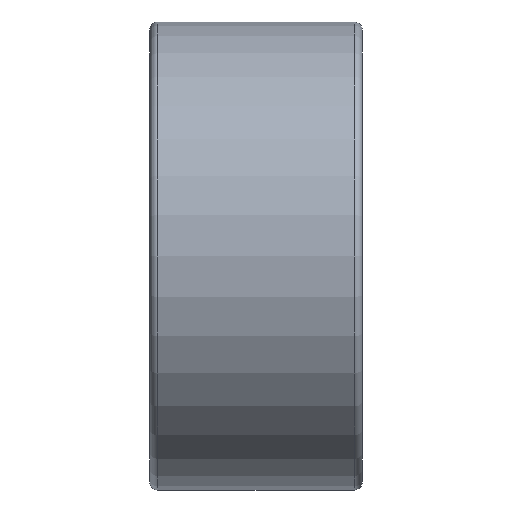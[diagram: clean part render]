
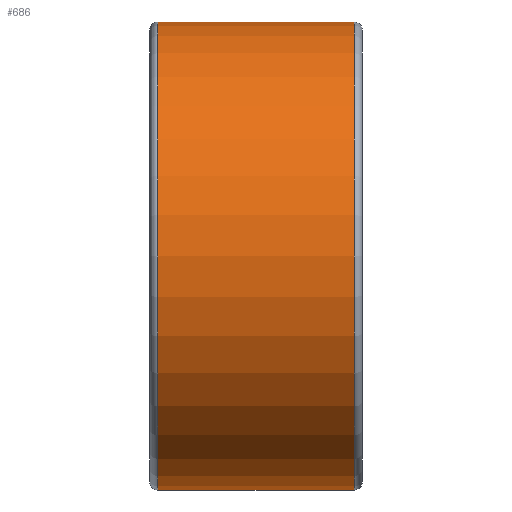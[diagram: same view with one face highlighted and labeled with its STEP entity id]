
A CAD part, front view. The second image highlights one B-rep face of the part: STEP entity #686.
In plain terms, the highlighted cylindrical face has radius 17.5 mm (diameter 35 mm), a full revolution.
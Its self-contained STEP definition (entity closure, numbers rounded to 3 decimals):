
#191=FACE_BOUND($,#298,.T.);
#232=FACE_OUTER_BOUND($,#297,.T.);
#297=EDGE_LOOP($,(#625));
#298=EDGE_LOOP($,(#626));
#346=CIRCLE($,#771,17.5);
#347=CIRCLE($,#773,17.5);
#406=VERTEX_POINT($,#1897);
#407=VERTEX_POINT($,#1900);
#481=EDGE_CURVE($,#406,#406,#346,.T.);
#482=EDGE_CURVE($,#407,#407,#347,.T.);
#625=ORIENTED_EDGE($,*,*,#481,.T.);
#626=ORIENTED_EDGE($,*,*,#482,.F.);
#645=CYLINDRICAL_SURFACE($,#772,17.5);
#686=ADVANCED_FACE($,(#232,#191),#645,.T.);
#771=AXIS2_PLACEMENT_3D($,#1898,#946,#947);
#772=AXIS2_PLACEMENT_3D($,#1899,#948,#949);
#773=AXIS2_PLACEMENT_3D($,#1901,#950,#951);
#946=DIRECTION('center_axis',(1.,0.,0.));
#947=DIRECTION('ref_axis',(0.,0.,-1.));
#948=DIRECTION('center_axis',(1.,0.,0.));
#949=DIRECTION('ref_axis',(0.,1.,0.));
#950=DIRECTION('center_axis',(1.,0.,0.));
#951=DIRECTION('ref_axis',(0.,0.,-1.));
#1897=CARTESIAN_POINT('',(-7.35,17.5,0.));
#1898=CARTESIAN_POINT('Origin',(-7.35,0.,0.));
#1899=CARTESIAN_POINT('Origin',(0.,0.,0.));
#1900=CARTESIAN_POINT('',(7.35,17.5,0.));
#1901=CARTESIAN_POINT('Origin',(7.35,0.,0.));
